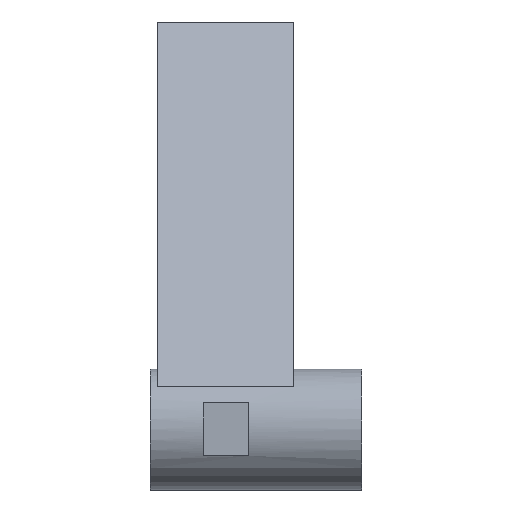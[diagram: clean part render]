
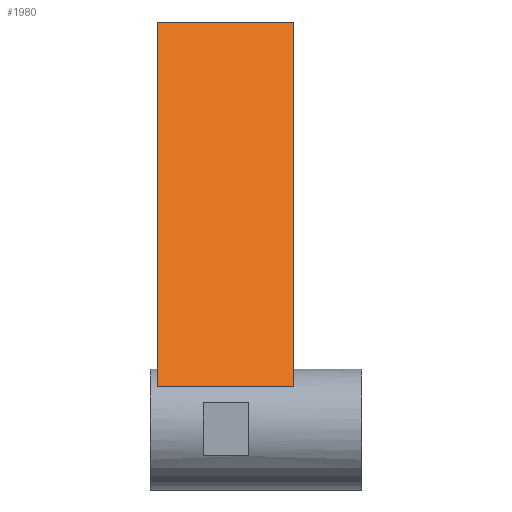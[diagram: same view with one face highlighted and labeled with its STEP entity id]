
A CAD part, top view. The second image highlights one B-rep face of the part: STEP entity #1980.
In plain terms, the highlighted planar face has unit normal (0, 0.67, 0.742).
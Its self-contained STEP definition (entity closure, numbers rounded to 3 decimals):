
#32 = CYLINDRICAL_SURFACE('',#33,8.);
#33 = AXIS2_PLACEMENT_3D('',#34,#35,#36);
#34 = CARTESIAN_POINT('',(-10.,0.,0.));
#35 = DIRECTION('',(-1.,0.,-0.));
#36 = DIRECTION('',(-0.,1.,-0.));
#100 = PLANE('',#101);
#101 = AXIS2_PLACEMENT_3D('',#102,#103,#104);
#102 = CARTESIAN_POINT('',(-9.,22.394,-20.179));
#103 = DIRECTION('',(1.,-0.,-0.));
#104 = DIRECTION('',(0.,0.,-1.));
#157 = PLANE('',#158);
#158 = AXIS2_PLACEMENT_3D('',#159,#160,#161);
#159 = CARTESIAN_POINT('',(9.,22.394,-20.179));
#160 = DIRECTION('',(1.,-0.,-0.));
#161 = DIRECTION('',(0.,0.,-1.));
#225 = VERTEX_POINT('',#226);
#226 = CARTESIAN_POINT('',(9.,5.657,5.657));
#248 = EDGE_CURVE('',#249,#225,#251,.T.);
#249 = VERTEX_POINT('',#250);
#250 = CARTESIAN_POINT('',(-9.,5.657,5.657));
#251 = SURFACE_CURVE('',#252,(#256,#263),.PCURVE_S1.);
#252 = LINE('',#253,#254);
#253 = CARTESIAN_POINT('',(-9.,5.657,5.657));
#254 = VECTOR('',#255,1.);
#255 = DIRECTION('',(1.,-0.,-0.));
#256 = PCURVE('',#32,#257);
#257 = DEFINITIONAL_REPRESENTATION('',(#258),#262);
#258 = LINE('',#259,#260);
#259 = CARTESIAN_POINT('',(5.498,-1.));
#260 = VECTOR('',#261,1.);
#261 = DIRECTION('',(0.,-1.));
#262 = ( GEOMETRIC_REPRESENTATION_CONTEXT(2) 
PARAMETRIC_REPRESENTATION_CONTEXT() REPRESENTATION_CONTEXT('2D SPACE',''
  ) );
#263 = PCURVE('',#264,#269);
#264 = PLANE('',#265);
#265 = AXIS2_PLACEMENT_3D('',#266,#267,#268);
#266 = CARTESIAN_POINT('',(-9.,5.657,5.657));
#267 = DIRECTION('',(-0.,-0.67,-0.742));
#268 = DIRECTION('',(-0.,-0.742,0.67));
#269 = DEFINITIONAL_REPRESENTATION('',(#270),#274);
#270 = LINE('',#271,#272);
#271 = CARTESIAN_POINT('',(-0.,-0.));
#272 = VECTOR('',#273,1.);
#273 = DIRECTION('',(-0.,-1.));
#274 = ( GEOMETRIC_REPRESENTATION_CONTEXT(2) 
PARAMETRIC_REPRESENTATION_CONTEXT() REPRESENTATION_CONTEXT('2D SPACE',''
  ) );
#702 = VERTEX_POINT('',#703);
#703 = CARTESIAN_POINT('',(-9.,54.,-38.));
#719 = PLANE('',#720);
#720 = AXIS2_PLACEMENT_3D('',#721,#722,#723);
#721 = CARTESIAN_POINT('',(-9.,54.,-38.));
#722 = DIRECTION('',(-0.,-1.,-0.));
#723 = DIRECTION('',(0.,0.,1.));
#782 = EDGE_CURVE('',#249,#702,#783,.T.);
#783 = SURFACE_CURVE('',#784,(#788,#795),.PCURVE_S1.);
#784 = LINE('',#785,#786);
#785 = CARTESIAN_POINT('',(-9.,5.657,5.657));
#786 = VECTOR('',#787,1.);
#787 = DIRECTION('',(0.,0.742,-0.67));
#788 = PCURVE('',#100,#789);
#789 = DEFINITIONAL_REPRESENTATION('',(#790),#794);
#790 = LINE('',#791,#792);
#791 = CARTESIAN_POINT('',(-25.835,-16.737));
#792 = VECTOR('',#793,1.);
#793 = DIRECTION('',(0.67,0.742));
#794 = ( GEOMETRIC_REPRESENTATION_CONTEXT(2) 
PARAMETRIC_REPRESENTATION_CONTEXT() REPRESENTATION_CONTEXT('2D SPACE',''
  ) );
#795 = PCURVE('',#264,#796);
#796 = DEFINITIONAL_REPRESENTATION('',(#797),#801);
#797 = LINE('',#798,#799);
#798 = CARTESIAN_POINT('',(-0.,-0.));
#799 = VECTOR('',#800,1.);
#800 = DIRECTION('',(-1.,0.));
#801 = ( GEOMETRIC_REPRESENTATION_CONTEXT(2) 
PARAMETRIC_REPRESENTATION_CONTEXT() REPRESENTATION_CONTEXT('2D SPACE',''
  ) );
#1980 = ADVANCED_FACE('',(#1981),#264,.F.);
#1981 = FACE_BOUND('',#1982,.T.);
#1982 = EDGE_LOOP('',(#1983,#1984,#2007,#2028));
#1983 = ORIENTED_EDGE('',*,*,#248,.T.);
#1984 = ORIENTED_EDGE('',*,*,#1985,.T.);
#1985 = EDGE_CURVE('',#225,#1986,#1988,.T.);
#1986 = VERTEX_POINT('',#1987);
#1987 = CARTESIAN_POINT('',(9.,54.,-38.));
#1988 = SURFACE_CURVE('',#1989,(#1993,#2000),.PCURVE_S1.);
#1989 = LINE('',#1990,#1991);
#1990 = CARTESIAN_POINT('',(9.,5.657,5.657));
#1991 = VECTOR('',#1992,1.);
#1992 = DIRECTION('',(0.,0.742,-0.67));
#1993 = PCURVE('',#264,#1994);
#1994 = DEFINITIONAL_REPRESENTATION('',(#1995),#1999);
#1995 = LINE('',#1996,#1997);
#1996 = CARTESIAN_POINT('',(-0.,-18.));
#1997 = VECTOR('',#1998,1.);
#1998 = DIRECTION('',(-1.,0.));
#1999 = ( GEOMETRIC_REPRESENTATION_CONTEXT(2) 
PARAMETRIC_REPRESENTATION_CONTEXT() REPRESENTATION_CONTEXT('2D SPACE',''
  ) );
#2000 = PCURVE('',#157,#2001);
#2001 = DEFINITIONAL_REPRESENTATION('',(#2002),#2006);
#2002 = LINE('',#2003,#2004);
#2003 = CARTESIAN_POINT('',(-25.835,-16.737));
#2004 = VECTOR('',#2005,1.);
#2005 = DIRECTION('',(0.67,0.742));
#2006 = ( GEOMETRIC_REPRESENTATION_CONTEXT(2) 
PARAMETRIC_REPRESENTATION_CONTEXT() REPRESENTATION_CONTEXT('2D SPACE',''
  ) );
#2007 = ORIENTED_EDGE('',*,*,#2008,.F.);
#2008 = EDGE_CURVE('',#702,#1986,#2009,.T.);
#2009 = SURFACE_CURVE('',#2010,(#2014,#2021),.PCURVE_S1.);
#2010 = LINE('',#2011,#2012);
#2011 = CARTESIAN_POINT('',(-9.,54.,-38.));
#2012 = VECTOR('',#2013,1.);
#2013 = DIRECTION('',(1.,-0.,-0.));
#2014 = PCURVE('',#264,#2015);
#2015 = DEFINITIONAL_REPRESENTATION('',(#2016),#2020);
#2016 = LINE('',#2017,#2018);
#2017 = CARTESIAN_POINT('',(-65.138,0.));
#2018 = VECTOR('',#2019,1.);
#2019 = DIRECTION('',(-0.,-1.));
#2020 = ( GEOMETRIC_REPRESENTATION_CONTEXT(2) 
PARAMETRIC_REPRESENTATION_CONTEXT() REPRESENTATION_CONTEXT('2D SPACE',''
  ) );
#2021 = PCURVE('',#719,#2022);
#2022 = DEFINITIONAL_REPRESENTATION('',(#2023),#2027);
#2023 = LINE('',#2024,#2025);
#2024 = CARTESIAN_POINT('',(-0.,-0.));
#2025 = VECTOR('',#2026,1.);
#2026 = DIRECTION('',(-0.,-1.));
#2027 = ( GEOMETRIC_REPRESENTATION_CONTEXT(2) 
PARAMETRIC_REPRESENTATION_CONTEXT() REPRESENTATION_CONTEXT('2D SPACE',''
  ) );
#2028 = ORIENTED_EDGE('',*,*,#782,.F.);
